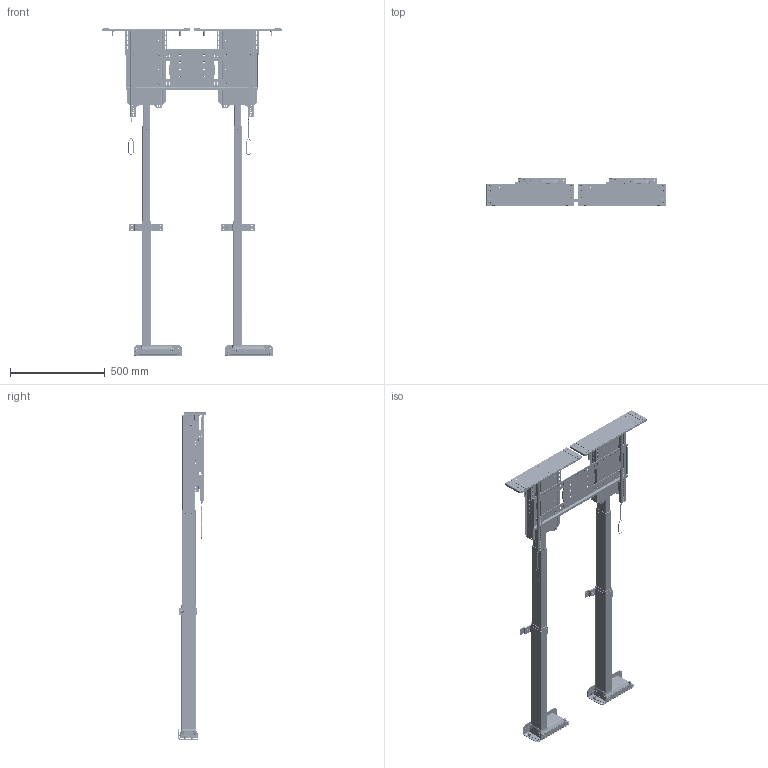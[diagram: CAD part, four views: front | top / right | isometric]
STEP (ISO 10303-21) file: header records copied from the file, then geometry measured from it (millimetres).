
FILE_DESCRIPTION(/* description */ ('STEP AP242','CAx-IF Rec.Pracs.---Representation and Presentation of Product Manufacturing Information (PMI)---4.0---2014-10-13','CAx-IF Rec.Pracs.---3D Tessellated Geometry---0.4---2014-09-14','2;1'),/* implementation_level */ '2;1');
FILE_NAME(/* name */ '63effc94e841dc281484818a',/* time_stamp */ '2023-02-17T22:15:53+00:00',/* author */ (''),/* organization */ (''),/* preprocessor_version */ 'ST-DEVELOPER v18.102',/* originating_system */ ' ',/* authorisation */ ' ');
FILE_SCHEMA (('AP242_MANAGED_MODEL_BASED_3D_ENGINEERING_MIM_LF { 1 0 10303 442 1 1 4 }'));
Products named in the file (70): ML-65; Socket button head screw M6x1 x 12; Hex socket countersunk head screw M6x1 x 12; Hex socket countersunk head screw M6x1 x 16; WDS8151-215; L-65 Lower Sub Assembly <2>; ULS-NX-002 - ULS QUICK RELEASE LC MOUNT; ULS-NX-004 - ULS COLUMN CLAMP; ULS-NX-022 - ULS REAR SUPPORT <1>; PEM FHS-M6-12  ; ULS-NX-022 - ULS REAR SUPPORT; DL16XL_STANDART_ASM <1>; L45 LC Inner Profile; L45 LC Middle Profile; L45 LC Motor Housing; ULS-NX-001 - ULS QUICK RELEASE BASE MOUNT W/ PEMS <1>; ULS-NX-001 - ULS QUICK RELEASE BASE MOUNT; L-65 Lower Sub Assembly <1>; ULS-NX-108 - ULS SCREEN SUPPORT WELDMENT <2>; PEM CLS-M6-1  ; F-M6-3 M6 PEM NUT; ULS-NX-009 - ULS SCREEN SUPPORT TOP PLATE <1>; ULS-NX-009 - UL SCREEN SUPPORT TOP PLATE; ULS-NX-008 - UL SCREEN SUPPORT SHELL; Lid Plate Assembly W/ Lid Supports <2>; ULS-NX-012 - ULS LID SUPPORT W PEMS <1>; UL LID SUPPORT (ULS-NX-012); PEM CLS-M6-2  ; ULS-NX-012 - ULS LID SUPPORT W PEMS <2>; LID-FL-ULS - ULS Lid Plate Assembly <1>; ULS-NX-006 - Lid Adapter W/ Pin <1>; OLD_ULS-NX-006 - UL LID ADAPTER <1>; ULS-NX-006 - UL LID ADAPTER; FHS-273-24 PEM; FL Sub Asm <1>; Hex nut grade C M6x1; ULS-NX-007 - UL LID PLATE EXTENDER; Plain washer large grade A M6; Hex socket countersunk head screw M6x1 x 8; 97069A106_Zinc-Plated Steel Spring Lock Washer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
Assembly tree (302 placements, depth 6):
  ML-65
    Socket button head screw M6x1 x 12  x16
    Hex socket countersunk head screw M6x1 x 12  x24
    Hex socket countersunk head screw M6x1 x 16  x8
    WDS8151-215  x8
    L-65 Lower Sub Assembly <2>
      ULS-NX-002 - ULS QUICK RELEASE LC MOUNT
      ULS-NX-004 - ULS COLUMN CLAMP
      ULS-NX-022 - ULS REAR SUPPORT <1>
        PEM FHS-M6-12    x2
        ULS-NX-022 - ULS REAR SUPPORT
      DL16XL_STANDART_ASM <1>
        L45 LC Inner Profile
        L45 LC Middle Profile
        L45 LC Motor Housing
      ULS-NX-001 - ULS QUICK RELEASE BASE MOUNT W/ PEMS <1>
        PEM FHS-M6-12    x2
        ULS-NX-001 - ULS QUICK RELEASE BASE MOUNT
    L-65 Lower Sub Assembly <1>
      DL16XL_STANDART_ASM <1>
        L45 LC Inner Profile
        L45 LC Middle Profile
        L45 LC Motor Housing
      ULS-NX-002 - ULS QUICK RELEASE LC MOUNT
      ULS-NX-004 - ULS COLUMN CLAMP
      ULS-NX-022 - ULS REAR SUPPORT <1>
        PEM FHS-M6-12    x2
        ULS-NX-022 - ULS REAR SUPPORT
      ULS-NX-001 - ULS QUICK RELEASE BASE MOUNT W/ PEMS <1>
        PEM FHS-M6-12    x2
        ULS-NX-001 - ULS QUICK RELEASE BASE MOUNT
    ULS-NX-108 - ULS SCREEN SUPPORT WELDMENT <2>
      PEM CLS-M6-1    x32
      F-M6-3 M6 PEM NUT
      ULS-NX-009 - ULS SCREEN SUPPORT TOP PLATE <1>
        PEM CLS-M6-1    x4
        ULS-NX-009 - UL SCREEN SUPPORT TOP PLATE
      ULS-NX-008 - UL SCREEN SUPPORT SHELL
    Lid Plate Assembly W/ Lid Supports <2>
      ULS-NX-012 - ULS LID SUPPORT W PEMS <1>
        UL LID SUPPORT (ULS-NX-012)
        PEM CLS-M6-2    x2
      ULS-NX-012 - ULS LID SUPPORT W PEMS <2>
        PEM CLS-M6-2    x2
        UL LID SUPPORT (ULS-NX-012)
      LID-FL-ULS - ULS Lid Plate Assembly <1>
        ULS-NX-006 - Lid Adapter W/ Pin <1>
          OLD_ULS-NX-006 - UL LID ADAPTER <1>
            ULS-NX-006 - UL LID ADAPTER
            FHS-273-24 PEM  x2
        FL Sub Asm <1>
          Hex nut grade C M6x1  x4
          ULS-NX-007 - UL LID PLATE EXTENDER  x2
          Plain washer large grade A M6  x4
          Hex socket countersunk head screw M6x1 x 8  x4
          97069A106_Zinc-Plated Steel Spring Lock Washer  x4
          NEX-LM-032 LID PIN GUIDE  x2
          ULS-NX-005 - UL LID PLATE W PEMS <1>
            PEM CLS-M6-2    x8
            PEM FHS-M6-15    x4
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Bounding box: 947.89 x 146.38 x 1727.69 mm (x, y, z)
Volume: 16957121.9 mm3; surface area: 3248150.9 mm2
Topology: 271 solids, 271 shells, 20596 faces, 55172 edges, 35786 vertices
Faces by surface type: plane 14338, cylinder 3510, cone 1368, bspline 926, torus 392, sphere 62
Full cylindrical faces by diameter (mm): 2.032 x14, 2.642 x4, 3.175 x10, 3.505 x4, 4.6 x4, 4.917 x106, 5 x24, 5.026 x4, 5.08 x4, 5.277 x8, 5.3 x12, 5.385 x12, 5.41 x8, 5.6 x8, 5.613 x12, 5.944 x4, 5.994 x4, 6 x124, 6.35 x24, 6.4 x8, 6.528 x8, 6.6 x4, 6.604 x8, 6.655 x4, 6.934 x4, 6.976 x2, 7.112 x2, 7.239 x4, 7.62 x4, 7.925 x4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
Entity records: 99155 total; most frequent: CARTESIAN_POINT 19221, DIRECTION 15694, ORIENTED_EDGE 14984, EDGE_CURVE 7492, AXIS2_PLACEMENT_3D 5427, VERTEX_POINT 4979, LINE 4840, VECTOR 4840
